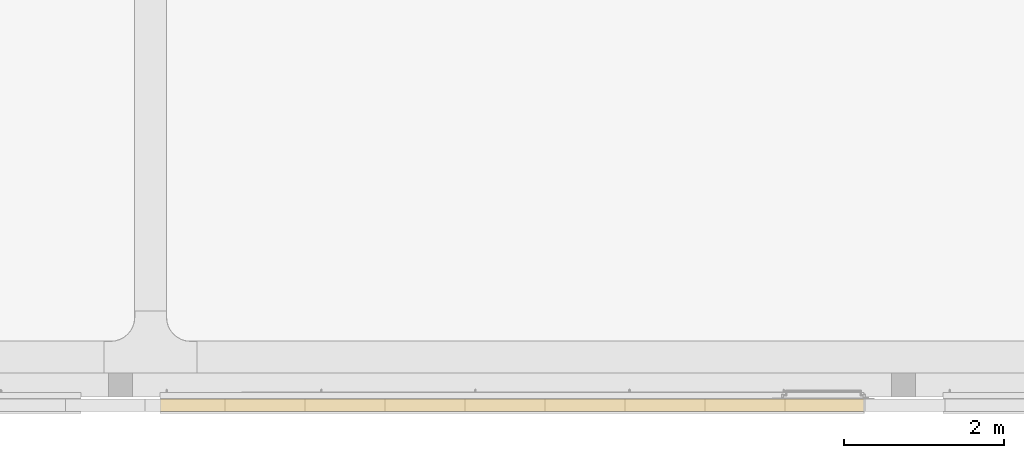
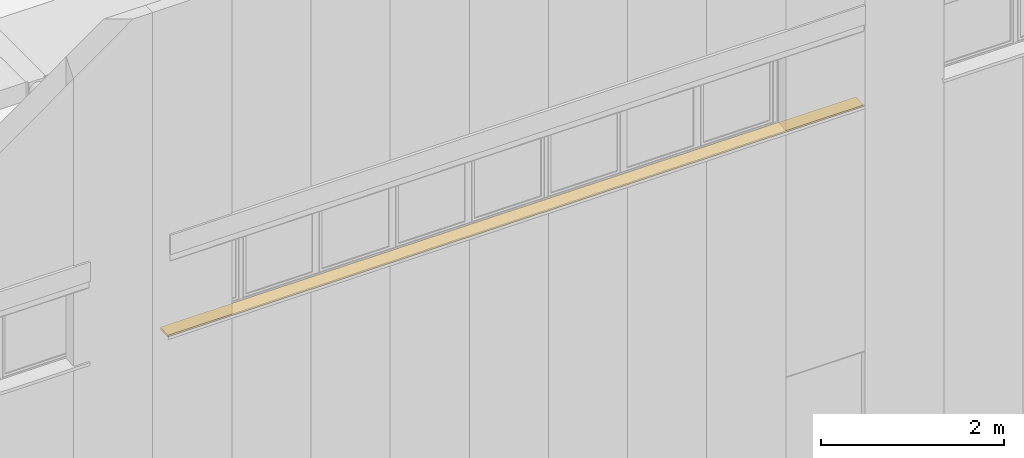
# One storey, part 220 of 302: 1 curtain wall, 1 opening, 1 element without a shape of its own.
"""IFC2X3 building model written with IfcOpenShell, lengths in metres."""

from ifc_helpers import new_model, entity, si_unit, converted_unit, derived_unit, direction, frame, frame_2d, origin, place, context, subcontext, project, spatial, rectangle, extrude, faceted_brep, material, layer, layer_set, layer_usage, type_object, element, aggregate, save


model = new_model("IFC2X3")

# Units and contexts
model_context = context("Model", 3, precision=1e-05, world=origin(), true_north=direction((6.12303176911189e-17, 1.0)))
body_context = subcontext(model_context, "Body", "Model", "MODEL_VIEW")
ifc_project = project(units=[si_unit("LENGTHUNIT", "METRE"), si_unit("AREAUNIT", "SQUARE_METRE"), si_unit("VOLUMEUNIT", "CUBIC_METRE"), converted_unit("PLANEANGLEUNIT", "DEGREE", entity("IfcRatioMeasure", 0.0174532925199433), si_unit("PLANEANGLEUNIT", "RADIAN"), dimensions=[0, 0, 0, 0, 0, 0, 0]), si_unit("MASSUNIT", "GRAM", prefix="KILO"), derived_unit("MASSDENSITYUNIT", [(si_unit("MASSUNIT", "GRAM", prefix="KILO"), 1), (si_unit("LENGTHUNIT", "METRE"), -3)]), derived_unit("MOMENTOFINERTIAUNIT", [(si_unit("LENGTHUNIT", "METRE"), 4)]), si_unit("TIMEUNIT", "SECOND"), si_unit("FREQUENCYUNIT", "HERTZ"), si_unit("THERMODYNAMICTEMPERATUREUNIT", "DEGREE_CELSIUS"), derived_unit("THERMALTRANSMITTANCEUNIT", [(si_unit("MASSUNIT", "GRAM", prefix="KILO"), 1), (si_unit("THERMODYNAMICTEMPERATUREUNIT", "KELVIN"), -1), (si_unit("TIMEUNIT", "SECOND"), -3)]), derived_unit("VOLUMETRICFLOWRATEUNIT", [(si_unit("LENGTHUNIT", "METRE"), 3), (si_unit("TIMEUNIT", "SECOND"), -1)]), si_unit("ELECTRICCURRENTUNIT", "AMPERE"), si_unit("ELECTRICVOLTAGEUNIT", "VOLT"), si_unit("POWERUNIT", "WATT"), si_unit("FORCEUNIT", "NEWTON", prefix="KILO"), si_unit("ILLUMINANCEUNIT", "LUX"), si_unit("LUMINOUSFLUXUNIT", "LUMEN"), si_unit("LUMINOUSINTENSITYUNIT", "CANDELA"), derived_unit("USERDEFINED", [(si_unit("MASSUNIT", "GRAM", prefix="KILO"), -1), (si_unit("LENGTHUNIT", "METRE"), -2), (si_unit("TIMEUNIT", "SECOND"), 3), (si_unit("LUMINOUSFLUXUNIT", "LUMEN"), 1)]), derived_unit("LINEARVELOCITYUNIT", [(si_unit("LENGTHUNIT", "METRE"), 1), (si_unit("TIMEUNIT", "SECOND"), -1)]), si_unit("PRESSUREUNIT", "PASCAL"), derived_unit("USERDEFINED", [(si_unit("LENGTHUNIT", "METRE"), -2), (si_unit("MASSUNIT", "GRAM", prefix="KILO"), 1), (si_unit("TIMEUNIT", "SECOND"), -2)]), derived_unit("LINEARFORCEUNIT", [(si_unit("MASSUNIT", "GRAM", prefix="KILO"), 1), (si_unit("LENGTHUNIT", "METRE"), 1), (si_unit("TIMEUNIT", "SECOND"), -2), (si_unit("LENGTHUNIT", "METRE"), -1)]), derived_unit("PLANARFORCEUNIT", [(si_unit("MASSUNIT", "GRAM", prefix="KILO"), 1), (si_unit("LENGTHUNIT", "METRE"), 1), (si_unit("TIMEUNIT", "SECOND"), -2), (si_unit("LENGTHUNIT", "METRE"), -2)])], contexts=[model_context])

# Site, building, storey
site_placement = place(None, origin())
site = spatial("IfcSite", under=ifc_project, at=site_placement, Name="Default", CompositionType="ELEMENT")
building_placement = place(site_placement, origin())
building = spatial("IfcBuilding", under=site, at=building_placement, CompositionType="ELEMENT")
storey_placement = place(building_placement, frame((0.0, 0.0, -1.3)))
storey = spatial("IfcBuildingStorey", under=building, at=storey_placement, Name="00_EG", CompositionType="ELEMENT", Elevation=-1.3)

# Curtain walls, opening
curtain_wall_type_1 = type_object("IfcCurtainWallType", Name="Fassade:Sandwichpaneele 16cm", PredefinedType="NOTDEFINED")
curtain_wall_1_placement = place(storey_placement, frame((0.0, 0.0, 1.3)))
curtain_wall_1 = element("IfcCurtainWall", 1, at=curtain_wall_1_placement, inside=storey, type_object=curtain_wall_type_1, Name="Fassade:Sandwichpaneele 16cm", ObjectType="Fassade:Sandwichpaneele 16cm")
ifc_material_1 = material(Name="Prepainted_Steel-ArcelorMittal_Construction_HAIRULTRA-35-CORAL-4309-[RAL_3000]")
ifc_layer_1 = layer(ifc_material_1, 0.015)
ifc_material_2 = material(Name="ArcelorMittal-MineralWool")
ifc_layer_2 = layer(ifc_material_2, 0.13)
ifc_material_3 = material(Name="Prepainted_Steel-ArcelorMittal_Construction_INTÉRIEUR-12-WHITE-912")
ifc_layer_3 = layer(ifc_material_3, 0.015)
ifc_layer_set = layer_set([ifc_layer_1, ifc_layer_2, ifc_layer_3], Name="Fassade:Sandwichpaneele 16cm")
ifc_layer_usage = layer_usage(ifc_layer_set, "AXIS2", "POSITIVE", -0.08)
curtain_wall_type_2 = type_object("IfcCurtainWallType", Name="Basiswand:Sandwichpaneele d = 16cm aussen", PredefinedType="NOTDEFINED", material=ifc_layer_set)
curtain_wall_2_placement = place(storey_placement, frame((-236.648236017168, 14.898088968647, 6.71999999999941)))
curtain_wall_2 = element("IfcCurtainWall", 2, at=curtain_wall_2_placement, type_object=curtain_wall_type_2, material=ifc_layer_usage, Name="Basiswand:Sandwichpaneele d = 16cm aussen", ObjectType="Basiswand:Sandwichpaneele d = 16cm aussen", context=body_context, shape_type="SweptSolid", body=[
    extrude(rectangle(XDim=8.78874999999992, YDim=0.159999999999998, at=frame_2d((4.39437499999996, 0.0), x_axis=(-1.0, 0.0))), origin(), (0.0, 0.0, 1.0), 0.0345454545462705),
])
opening_placement = place(curtain_wall_2_placement, frame((-0.00562500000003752, -0.080000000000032, 0.0200000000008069)))
element("IfcOpeningElement", 3, at=opening_placement, cuts=curtain_wall_2, Name="Basiswand:Sandwichpaneele d = 16cm aussen", ObjectType="Opening", context=body_context, shape_type="Brep", body=[
    faceted_brep([(0.0, 0.165000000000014, 1.43499999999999), (8.80000000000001, 0.164999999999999, 1.43499999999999), (8.80000000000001, 0.164999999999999, 0.0150000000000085), (0.0, 0.165000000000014, 0.0150000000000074), (0.0, 0.0, 1.43499999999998), (0.0, 0.0, 0.0), (8.79999999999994, 0.0, 0.0), (8.79999999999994, 0.0, 1.43499999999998)], [[[0, 1, 2, 3]], [[4, 5, 6, 7]], [[5, 4, 0, 3]], [[6, 5, 3, 2]], [[7, 6, 2, 1]], [[4, 7, 1, 0]]]),
])
aggregate(curtain_wall_1, [curtain_wall_2])

save(model, "model.ifc")
